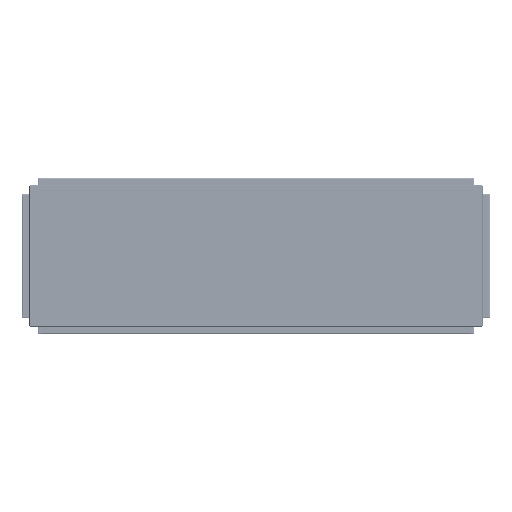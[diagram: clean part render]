
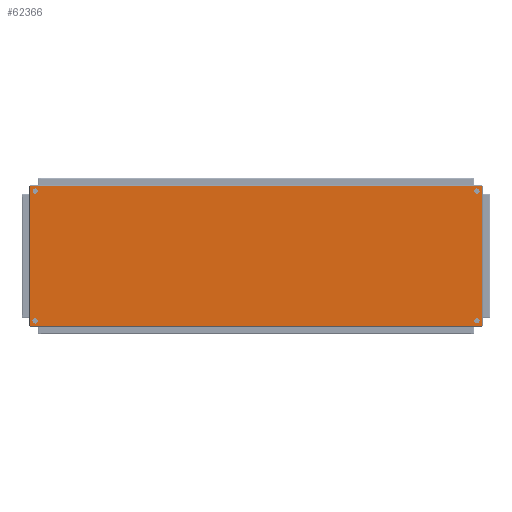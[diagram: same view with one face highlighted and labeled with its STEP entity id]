
A CAD part, left-side view. The second image highlights one B-rep face of the part: STEP entity #62366.
In plain terms, the highlighted planar face has unit normal (-1, 0, 0) as drawn and (0, 0, -1) by its records, which use the part's own axes.
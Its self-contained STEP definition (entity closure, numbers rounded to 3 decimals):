
#297 = LINE ( 'NONE', #49488, #49153 ) ;
#1235 = CIRCLE ( 'NONE', #16372, 6.75 ) ;
#1606 = VERTEX_POINT ( 'NONE', #37686 ) ;
#1761 = DIRECTION ( 'NONE',  ( 0., 0., -1. ) ) ;
#1999 = DIRECTION ( 'NONE',  ( 0., 0., -1. ) ) ;
#2453 = ORIENTED_EDGE ( 'NONE', *, *, #56561, .F. ) ;
#4148 = CIRCLE ( 'NONE', #27545, 6.75 ) ;
#5077 = PLANE ( 'NONE',  #58537 ) ;
#5986 = DIRECTION ( 'NONE',  ( 0., 0., -1. ) ) ;
#6574 = AXIS2_PLACEMENT_3D ( 'NONE', #69271, #34573, #46655 ) ;
#6990 = EDGE_CURVE ( 'NONE', #41594, #49479, #9685, .T. ) ;
#7998 = AXIS2_PLACEMENT_3D ( 'NONE', #70648, #42360, #43084 ) ;
#9490 = CARTESIAN_POINT ( 'NONE',  ( 166.42, -566.42, -1.5 ) ) ;
#9672 = ORIENTED_EDGE ( 'NONE', *, *, #68846, .F. ) ;
#9685 = CIRCLE ( 'NONE', #30405, 6.75 ) ;
#11869 = DIRECTION ( 'NONE',  ( 1., 0., 0. ) ) ;
#12780 = CIRCLE ( 'NONE', #6574, 6.75 ) ;
#13452 = EDGE_CURVE ( 'NONE', #62610, #60031, #30049, .T. ) ;
#14730 = ORIENTED_EDGE ( 'NONE', *, *, #16374, .F. ) ;
#14966 = VERTEX_POINT ( 'NONE', #38651 ) ;
#15642 = DIRECTION ( 'NONE',  ( 0., -1., 0. ) ) ;
#16372 = AXIS2_PLACEMENT_3D ( 'NONE', #29406, #1999, #41757 ) ;
#16374 = EDGE_CURVE ( 'NONE', #35711, #59116, #52709, .T. ) ;
#18925 = EDGE_CURVE ( 'NONE', #52307, #14966, #46010, .T. ) ;
#19935 = AXIS2_PLACEMENT_3D ( 'NONE', #9490, #27414, #43738 ) ;
#20052 = EDGE_LOOP ( 'NONE', ( #52268, #20079 ) ) ;
#20079 = ORIENTED_EDGE ( 'NONE', *, *, #57683, .F. ) ;
#20381 = CARTESIAN_POINT ( 'NONE',  ( 159.67, 566.42, -1.5 ) ) ;
#20914 = ORIENTED_EDGE ( 'NONE', *, *, #39281, .F. ) ;
#22098 = CARTESIAN_POINT ( 'NONE',  ( -179., 579., -1.5 ) ) ;
#22487 = DIRECTION ( 'NONE',  ( 1., 0., 0. ) ) ;
#22800 = EDGE_CURVE ( 'NONE', #59116, #35711, #48073, .T. ) ;
#23875 = LINE ( 'NONE', #49106, #46030 ) ;
#26008 = FACE_OUTER_BOUND ( 'NONE', #27769, .T. ) ;
#26698 = DIRECTION ( 'NONE',  ( -1., 0., 0. ) ) ;
#26803 = VERTEX_POINT ( 'NONE', #27538 ) ;
#27252 = DIRECTION ( 'NONE',  ( 0., 0., -1. ) ) ;
#27414 = DIRECTION ( 'NONE',  ( 0., 0., -1. ) ) ;
#27530 = EDGE_CURVE ( 'NONE', #26803, #52307, #297, .T. ) ;
#27538 = CARTESIAN_POINT ( 'NONE',  ( -179., -579., -1.5 ) ) ;
#27545 = AXIS2_PLACEMENT_3D ( 'NONE', #67399, #27252, #50243 ) ;
#27769 = EDGE_LOOP ( 'NONE', ( #20914, #2453, #68288, #37678 ) ) ;
#28504 = VECTOR ( 'NONE', #26698, 1000. ) ;
#29118 = ORIENTED_EDGE ( 'NONE', *, *, #42655, .F. ) ;
#29406 = CARTESIAN_POINT ( 'NONE',  ( 166.42, 566.42, -1.5 ) ) ;
#30049 = CIRCLE ( 'NONE', #59674, 6.75 ) ;
#30405 = AXIS2_PLACEMENT_3D ( 'NONE', #70299, #1761, #47215 ) ;
#31178 = ORIENTED_EDGE ( 'NONE', *, *, #68084, .F. ) ;
#32669 = CARTESIAN_POINT ( 'NONE',  ( 179., 579., -1.5 ) ) ;
#32773 = CARTESIAN_POINT ( 'NONE',  ( -173.17, 566.42, -1.5 ) ) ;
#33936 = EDGE_LOOP ( 'NONE', ( #14730, #44931 ) ) ;
#34573 = DIRECTION ( 'NONE',  ( 0., 0., -1. ) ) ;
#34972 = EDGE_LOOP ( 'NONE', ( #9672, #69171 ) ) ;
#35711 = VERTEX_POINT ( 'NONE', #43909 ) ;
#37521 = CARTESIAN_POINT ( 'NONE',  ( -166.42, -566.42, -1.5 ) ) ;
#37678 = ORIENTED_EDGE ( 'NONE', *, *, #27530, .F. ) ;
#37686 = CARTESIAN_POINT ( 'NONE',  ( 173.17, 566.42, -1.5 ) ) ;
#38651 = CARTESIAN_POINT ( 'NONE',  ( 179., 579., -1.5 ) ) ;
#39095 = CARTESIAN_POINT ( 'NONE',  ( 0., 0., -1.5 ) ) ;
#39281 = EDGE_CURVE ( 'NONE', #57330, #26803, #23875, .T. ) ;
#40011 = CARTESIAN_POINT ( 'NONE',  ( 166.42, -566.42, -1.5 ) ) ;
#41594 = VERTEX_POINT ( 'NONE', #64973 ) ;
#41757 = DIRECTION ( 'NONE',  ( 1., 0., 0. ) ) ;
#42360 = DIRECTION ( 'NONE',  ( 0., 0., -1. ) ) ;
#42655 = EDGE_CURVE ( 'NONE', #1606, #49380, #1235, .T. ) ;
#42800 = FACE_BOUND ( 'NONE', #20052, .T. ) ;
#43084 = DIRECTION ( 'NONE',  ( 1., 0., 0. ) ) ;
#43547 = LINE ( 'NONE', #60346, #28504 ) ;
#43738 = DIRECTION ( 'NONE',  ( -1., 0., 0. ) ) ;
#43909 = CARTESIAN_POINT ( 'NONE',  ( 159.67, -566.42, -1.5 ) ) ;
#44931 = ORIENTED_EDGE ( 'NONE', *, *, #22800, .F. ) ;
#46010 = LINE ( 'NONE', #32669, #51328 ) ;
#46030 = VECTOR ( 'NONE', #15642, 1000. ) ;
#46655 = DIRECTION ( 'NONE',  ( -1., 0., 0. ) ) ;
#47215 = DIRECTION ( 'NONE',  ( -1., 0., 0. ) ) ;
#48073 = CIRCLE ( 'NONE', #66308, 6.75 ) ;
#49106 = CARTESIAN_POINT ( 'NONE',  ( -179., 579., -1.5 ) ) ;
#49153 = VECTOR ( 'NONE', #55397, 1000. ) ;
#49380 = VERTEX_POINT ( 'NONE', #20381 ) ;
#49479 = VERTEX_POINT ( 'NONE', #32773 ) ;
#49488 = CARTESIAN_POINT ( 'NONE',  ( -179., -579., -1.5 ) ) ;
#50243 = DIRECTION ( 'NONE',  ( 1., 0., 0. ) ) ;
#51148 = EDGE_LOOP ( 'NONE', ( #31178, #29118 ) ) ;
#51328 = VECTOR ( 'NONE', #55422, 1000. ) ;
#51402 = DIRECTION ( 'NONE',  ( -1., 0., 0. ) ) ;
#52268 = ORIENTED_EDGE ( 'NONE', *, *, #13452, .F. ) ;
#52307 = VERTEX_POINT ( 'NONE', #73498 ) ;
#52709 = CIRCLE ( 'NONE', #19935, 6.75 ) ;
#53714 = DIRECTION ( 'NONE',  ( 0., 0., -1. ) ) ;
#53920 = CARTESIAN_POINT ( 'NONE',  ( -173.17, -566.42, -1.5 ) ) ;
#54049 = CIRCLE ( 'NONE', #7998, 6.75 ) ;
#54304 = FACE_BOUND ( 'NONE', #33936, .T. ) ;
#55397 = DIRECTION ( 'NONE',  ( 1., 0., 0. ) ) ;
#55422 = DIRECTION ( 'NONE',  ( 0., 1., 0. ) ) ;
#56085 = FACE_BOUND ( 'NONE', #34972, .T. ) ;
#56561 = EDGE_CURVE ( 'NONE', #14966, #57330, #43547, .T. ) ;
#57131 = CARTESIAN_POINT ( 'NONE',  ( 173.17, -566.42, -1.5 ) ) ;
#57330 = VERTEX_POINT ( 'NONE', #22098 ) ;
#57683 = EDGE_CURVE ( 'NONE', #60031, #62610, #54049, .T. ) ;
#58537 = AXIS2_PLACEMENT_3D ( 'NONE', #39095, #73330, #22487 ) ;
#59116 = VERTEX_POINT ( 'NONE', #57131 ) ;
#59674 = AXIS2_PLACEMENT_3D ( 'NONE', #37521, #53714, #11869 ) ;
#60031 = VERTEX_POINT ( 'NONE', #63656 ) ;
#60346 = CARTESIAN_POINT ( 'NONE',  ( -179., 579., -1.5 ) ) ;
#62366 = ADVANCED_FACE ( 'NONE', ( #42800, #72078, #54304, #56085, #26008 ), #5077, .F. ) ;
#62610 = VERTEX_POINT ( 'NONE', #53920 ) ;
#63656 = CARTESIAN_POINT ( 'NONE',  ( -159.67, -566.42, -1.5 ) ) ;
#64973 = CARTESIAN_POINT ( 'NONE',  ( -159.67, 566.42, -1.5 ) ) ;
#66308 = AXIS2_PLACEMENT_3D ( 'NONE', #40011, #5986, #51402 ) ;
#67399 = CARTESIAN_POINT ( 'NONE',  ( 166.42, 566.42, -1.5 ) ) ;
#68084 = EDGE_CURVE ( 'NONE', #49380, #1606, #4148, .T. ) ;
#68288 = ORIENTED_EDGE ( 'NONE', *, *, #18925, .F. ) ;
#68846 = EDGE_CURVE ( 'NONE', #49479, #41594, #12780, .T. ) ;
#69171 = ORIENTED_EDGE ( 'NONE', *, *, #6990, .F. ) ;
#69271 = CARTESIAN_POINT ( 'NONE',  ( -166.42, 566.42, -1.5 ) ) ;
#70299 = CARTESIAN_POINT ( 'NONE',  ( -166.42, 566.42, -1.5 ) ) ;
#70648 = CARTESIAN_POINT ( 'NONE',  ( -166.42, -566.42, -1.5 ) ) ;
#72078 = FACE_BOUND ( 'NONE', #51148, .T. ) ;
#73330 = DIRECTION ( 'NONE',  ( 0., 0., 1. ) ) ;
#73498 = CARTESIAN_POINT ( 'NONE',  ( 179., -579., -1.5 ) ) ;
